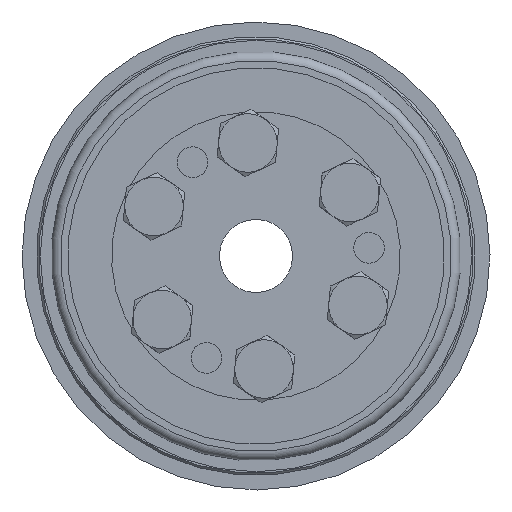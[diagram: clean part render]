
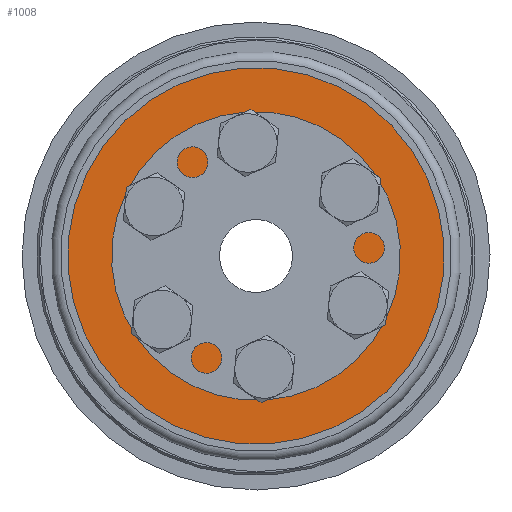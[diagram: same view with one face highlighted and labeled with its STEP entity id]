
A CAD part, left-side view. The second image highlights one B-rep face of the part: STEP entity #1008.
In plain terms, the highlighted planar face has unit normal (-1, 0, 0).
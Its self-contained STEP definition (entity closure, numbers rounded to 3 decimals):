
#1008 = ADVANCED_FACE( 'NONE', ( #1987, #1988, #1989, #1990, #1991, #1992, #1993, #1994 ), #1995, .F. );
#1987 = FACE_OUTER_BOUND( '', #2868, .T. );
#1988 = FACE_BOUND( '', #2869, .T. );
#1989 = FACE_BOUND( '', #2870, .T. );
#1990 = FACE_BOUND( '', #2871, .T. );
#1991 = FACE_BOUND( '', #2872, .T. );
#1992 = FACE_BOUND( '', #2873, .T. );
#1993 = FACE_BOUND( '', #2874, .T. );
#1994 = FACE_BOUND( '', #2875, .T. );
#1995 = PLANE( '', #2876 );
#2868 = EDGE_LOOP( '', ( #4225 ) );
#2869 = EDGE_LOOP( '', ( #4226 ) );
#2870 = EDGE_LOOP( '', ( #4227 ) );
#2871 = EDGE_LOOP( '', ( #4228 ) );
#2872 = EDGE_LOOP( '', ( #4229 ) );
#2873 = EDGE_LOOP( '', ( #4230 ) );
#2874 = EDGE_LOOP( '', ( #4231 ) );
#2875 = EDGE_LOOP( '', ( #4232 ) );
#2876 = AXIS2_PLACEMENT_3D( '', #4233, #4234, #4235 );
#4225 = ORIENTED_EDGE( '', *, *, #4574, .T. );
#4226 = ORIENTED_EDGE( '', *, *, #4245, .F. );
#4227 = ORIENTED_EDGE( '', *, *, #4254, .F. );
#4228 = ORIENTED_EDGE( '', *, *, #4496, .F. );
#4229 = ORIENTED_EDGE( '', *, *, #4368, .F. );
#4230 = ORIENTED_EDGE( '', *, *, #4717, .F. );
#4231 = ORIENTED_EDGE( '', *, *, #4695, .F. );
#4232 = ORIENTED_EDGE( '', *, *, #4658, .F. );
#4233 = CARTESIAN_POINT( '', ( 0., 12.2, 0. ) );
#4234 = DIRECTION( '', ( 1., 0., 0. ) );
#4235 = DIRECTION( '', ( 0., 1., 0. ) );
#4245 = EDGE_CURVE( 'NONE', #4732, #4732, #4733, .T. );
#4254 = EDGE_CURVE( 'NONE', #4748, #4748, #4749, .T. );
#4368 = EDGE_CURVE( 'NONE', #4942, #4942, #4943, .T. );
#4496 = EDGE_CURVE( 'NONE', #5143, #5143, #5144, .T. );
#4574 = EDGE_CURVE( 'NONE', #5260, #5260, #5261, .T. );
#4658 = EDGE_CURVE( 'NONE', #5370, #5370, #5371, .T. );
#4695 = EDGE_CURVE( 'NONE', #5414, #5414, #5415, .T. );
#4717 = EDGE_CURVE( 'NONE', #5438, #5438, #5439, .T. );
#4732 = VERTEX_POINT( '', #5454 );
#4733 = CIRCLE( '', #5455, 2.1 );
#4748 = VERTEX_POINT( '', #5479 );
#4749 = CIRCLE( '', #5480, 2.1 );
#4942 = VERTEX_POINT( '', #5808 );
#4943 = CIRCLE( '', #5809, 2.1 );
#5143 = VERTEX_POINT( '', #6189 );
#5144 = CIRCLE( '', #6190, 2.1 );
#5260 = VERTEX_POINT( '', #6373 );
#5261 = CIRCLE( '', #6374, 25.75 );
#5370 = VERTEX_POINT( '', #6504 );
#5371 = CIRCLE( '', #6505, 2.1 );
#5414 = VERTEX_POINT( '', #6557 );
#5415 = CIRCLE( '', #6558, 2.1 );
#5438 = VERTEX_POINT( '', #6585 );
#5439 = CIRCLE( '', #6586, 12.2 );
#5454 = CARTESIAN_POINT( '', ( 0., -7.75, 15.523 ) );
#5455 = AXIS2_PLACEMENT_3D( '', #6601, #6602, #6603 );
#5479 = CARTESIAN_POINT( '', ( 0., -7.75, -11.323 ) );
#5480 = AXIS2_PLACEMENT_3D( '', #6610, #6611, #6612 );
#5808 = CARTESIAN_POINT( '', ( 0., 15.5, 2.1 ) );
#5809 = AXIS2_PLACEMENT_3D( '', #6802, #6803, #6804 );
#6189 = CARTESIAN_POINT( '', ( 0., 7.75, -11.323 ) );
#6190 = AXIS2_PLACEMENT_3D( '', #7009, #7010, #7011 );
#6373 = CARTESIAN_POINT( '', ( 0., 0., 25.75 ) );
#6374 = AXIS2_PLACEMENT_3D( '', #7136, #7137, #7138 );
#6504 = CARTESIAN_POINT( '', ( 0., 7.75, 15.523 ) );
#6505 = AXIS2_PLACEMENT_3D( '', #7226, #7227, #7228 );
#6557 = CARTESIAN_POINT( '', ( 0., -15.5, 2.1 ) );
#6558 = AXIS2_PLACEMENT_3D( '', #7256, #7257, #7258 );
#6585 = CARTESIAN_POINT( '', ( 0., 0., 12.2 ) );
#6586 = AXIS2_PLACEMENT_3D( '', #7272, #7273, #7274 );
#6601 = CARTESIAN_POINT( '', ( 0., -7.75, 13.423 ) );
#6602 = DIRECTION( '', ( -1., 0., 0. ) );
#6603 = DIRECTION( '', ( 0., 0., 1. ) );
#6610 = CARTESIAN_POINT( '', ( 0., -7.75, -13.423 ) );
#6611 = DIRECTION( '', ( -1., 0., 0. ) );
#6612 = DIRECTION( '', ( 0., 0., 1. ) );
#6802 = CARTESIAN_POINT( '', ( 0., 15.5, 0. ) );
#6803 = DIRECTION( '', ( -1., 0., 0. ) );
#6804 = DIRECTION( '', ( 0., 0., 1. ) );
#7009 = CARTESIAN_POINT( '', ( 0., 7.75, -13.423 ) );
#7010 = DIRECTION( '', ( -1., 0., 0. ) );
#7011 = DIRECTION( '', ( 0., 0., 1. ) );
#7136 = CARTESIAN_POINT( '', ( 0., 0., 0. ) );
#7137 = DIRECTION( '', ( -1., 0., 0. ) );
#7138 = DIRECTION( '', ( 0., 0., 1. ) );
#7226 = CARTESIAN_POINT( '', ( 0., 7.75, 13.423 ) );
#7227 = DIRECTION( '', ( -1., 0., 0. ) );
#7228 = DIRECTION( '', ( 0., 0., 1. ) );
#7256 = CARTESIAN_POINT( '', ( 0., -15.5, 0. ) );
#7257 = DIRECTION( '', ( -1., 0., 0. ) );
#7258 = DIRECTION( '', ( 0., 0., 1. ) );
#7272 = CARTESIAN_POINT( '', ( 0., 0., 0. ) );
#7273 = DIRECTION( '', ( -1., 0., 0. ) );
#7274 = DIRECTION( '', ( 0., 0., 1. ) );
